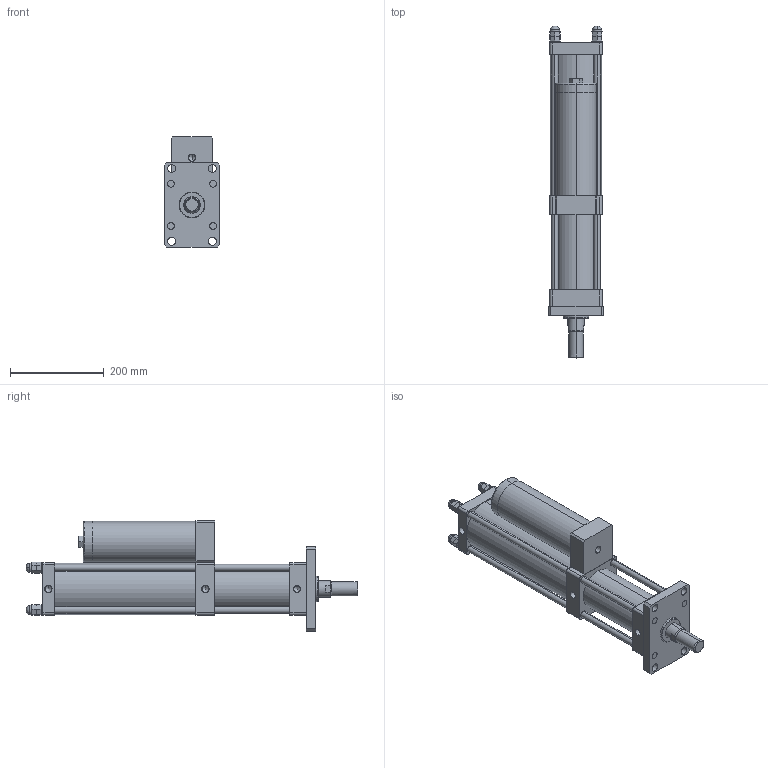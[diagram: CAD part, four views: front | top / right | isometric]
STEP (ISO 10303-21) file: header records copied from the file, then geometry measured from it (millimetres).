
FILE_DESCRIPTION (( 'STEP AP203' ), '1' );
FILE_NAME ('MPT-80-50-15-8T.STEP', '2016-03-11T03:25:34', ( 'WIN' ), ( '' ), 'SwSTEP 2.0', 'SolidWorks 2014', '' );
FILE_SCHEMA (( 'CONFIG_CONTROL_DESIGN' ));
Length unit declared in the file: millimetre
Products named in the file (1): MPT-80-50-15-8T
Bounding box: 118 x 707.01 x 235 mm (x, y, z)
Volume: 6230473.4 mm3; surface area: 694526 mm2
Topology: 20 solids, 20 shells, 399 faces, 972 edges, 566 vertices
Faces by surface type: plane 186, cylinder 90, torus 48, bspline 48, cone 27
Entity records: 12766 total; most frequent: CARTESIAN_POINT 3714, DIRECTION 1907, ORIENTED_EDGE 1812, EDGE_CURVE 906, AXIS2_PLACEMENT_3D 703, VERTEX_POINT 566, LINE 501, VECTOR 501
